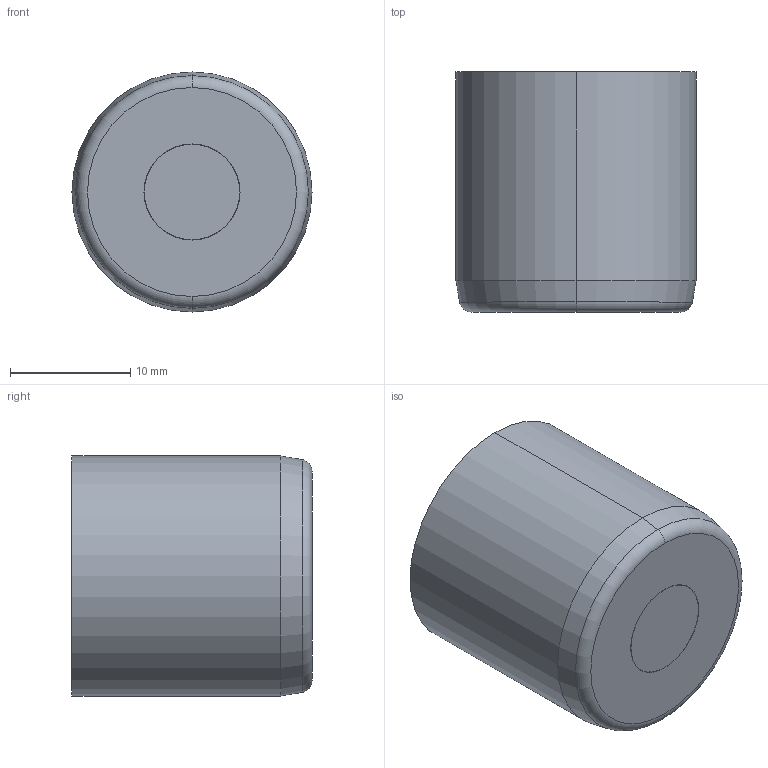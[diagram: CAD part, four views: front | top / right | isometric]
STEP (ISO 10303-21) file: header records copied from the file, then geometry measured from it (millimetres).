
FILE_DESCRIPTION (( 'STEP AP214' ), '1' );
FILE_NAME ('FA 200712-21.STEP', '2020-08-12T07:33:55', ( '' ), ( '' ), 'SwSTEP 2.0', 'SolidWorks 2019', '' );
FILE_SCHEMA (( 'AUTOMOTIVE_DESIGN' ));
Length unit declared in the file: millimetre
Products named in the file (6): D9FA 200712; FA 200712-21; DFA 168700-2 comprimido; DIA 100714; DFA 168700-1; DFA 168700-3
Assembly tree (5 placements, depth 2):
  FA 200712-21
    D9FA 200712
    DIA 100714
    DFA 168700-3
    DFA 168700-2 comprimido
    DFA 168700-1
Bounding box: 20 x 20 x 20 mm (x, y, z)
Volume: 6006.5 mm3; surface area: 3299.3 mm2
Topology: 5 solids, 5 shells, 332 faces, 844 edges, 549 vertices
Faces by surface type: plane 144, cylinder 131, cone 34, bspline 13, torus 10
Entity records: 12108 total; most frequent: CARTESIAN_POINT 3644, DIRECTION 1758, ORIENTED_EDGE 1684, EDGE_CURVE 842, AXIS2_PLACEMENT_3D 643, VERTEX_POINT 549, VECTOR 472, LINE 472
